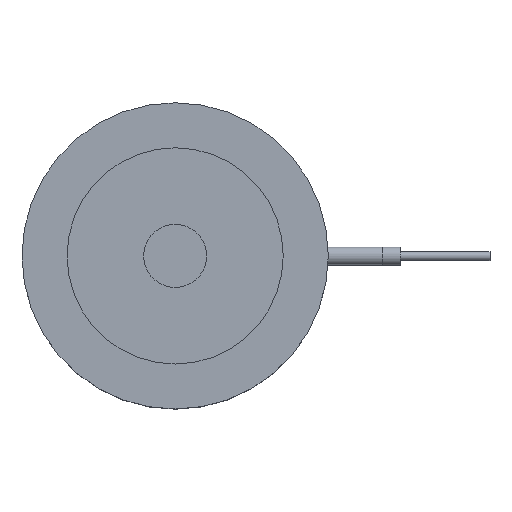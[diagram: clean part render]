
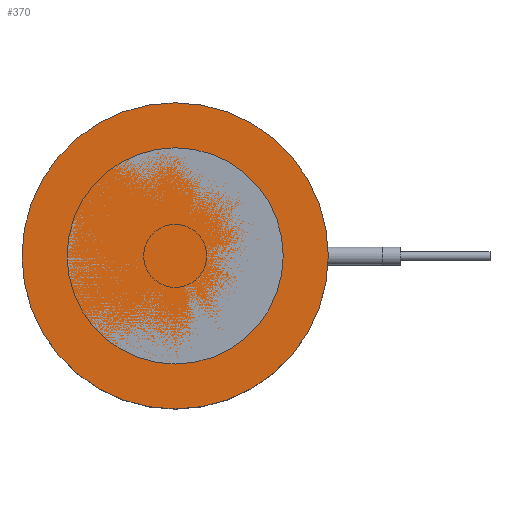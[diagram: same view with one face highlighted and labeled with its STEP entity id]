
A CAD part, top view. The second image highlights one B-rep face of the part: STEP entity #370.
In plain terms, the highlighted planar face has unit normal (0, 0, 1).
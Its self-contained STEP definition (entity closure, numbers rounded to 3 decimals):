
#221=PLANE('',#1305);
#277=FACE_OUTER_BOUND('',#619,.T.);
#370=ADVANCED_FACE('',(#277),#221,.F.);
#619=EDGE_LOOP('',(#849));
#849=ORIENTED_EDGE('',*,*,#1066,.F.);
#950=VERTEX_POINT('',#2109);
#1066=EDGE_CURVE('',#950,#950,#1145,.T.);
#1145=CIRCLE('',#1304,17.);
#1304=AXIS2_PLACEMENT_3D('',#2108,#1651,#1652);
#1305=AXIS2_PLACEMENT_3D('',#2110,#1653,#1654);
#1651=DIRECTION('',(0.,0.,-1.));
#1652=DIRECTION('',(-1.,0.,0.));
#1653=DIRECTION('',(0.,0.,-1.));
#1654=DIRECTION('',(-1.,0.,0.));
#2108=CARTESIAN_POINT('',(0.,0.,0.));
#2109=CARTESIAN_POINT('',(-17.,0.,0.));
#2110=CARTESIAN_POINT('',(0.,0.,0.));
